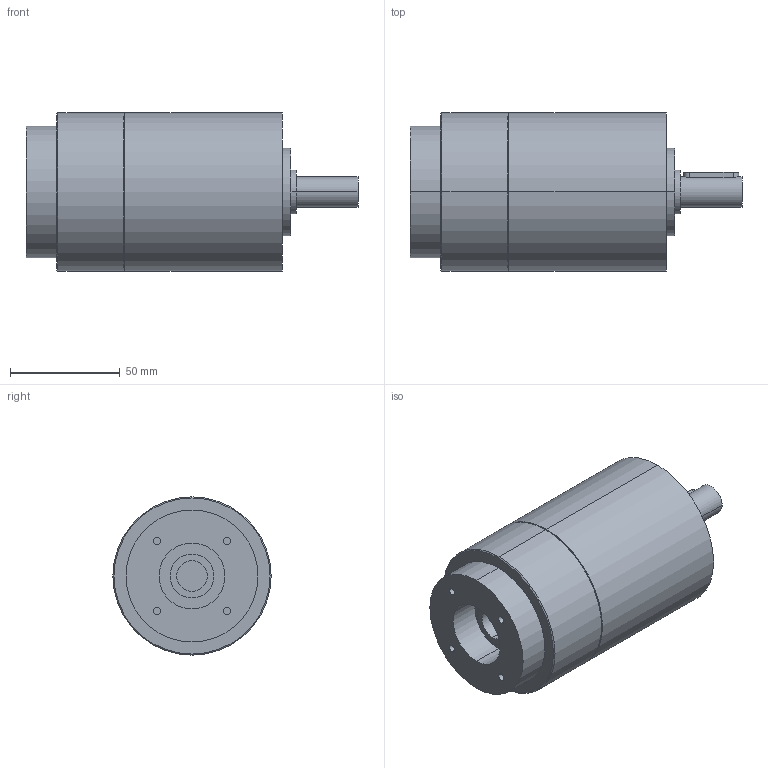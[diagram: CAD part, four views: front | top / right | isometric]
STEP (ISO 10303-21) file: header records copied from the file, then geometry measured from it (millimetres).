
FILE_DESCRIPTION(('CoCreate Modeling STEP Export'),'2;1');
FILE_NAME('GPT75_ig-9-12-16-20-25-28-35-40-50-70-100_14_B14T_14_P16.stp','2014-08-27T13:17:07',(''),(''),'CoCreate Modeling STEP processor for AP214 (Solid Model)','CoCreate Modeling 16.00C 25-Feb-2009 (C) Parametric Technology GmbH','');
FILE_SCHEMA(('AUTOMOTIVE_DESIGN { 1 0 10303 214 1 1 1 1 }'));
Length unit declared in the file: millimetre
Products named in the file (2): GPT75_ig-9-12-16-20-25-28-35-40-50-70-100_14_B14T_14_P16
Assembly tree (1 placements, depth 2):
  GPT75_ig-9-12-16-20-25-28-35-40-50-70-100_14_B14T_14_P16
    GPT75_ig-9-12-16-20-25-28-35-40-50-70-100_14_B14T_14_P16
Bounding box: 151 x 72 x 72 mm (x, y, z)
Volume: 451953.6 mm3; surface area: 40459.9 mm2
Topology: 1 solids, 1 shells, 64 faces, 142 edges, 97 vertices
Faces by surface type: cylinder 38, plane 22, cone 4
Entity records: 1878 total; most frequent: CARTESIAN_POINT 614, ORIENTED_EDGE 284, DIRECTION 210, EDGE_CURVE 142, VERTEX_POINT 97, AXIS2_PLACEMENT_3D 81, EDGE_LOOP 81, FACE_OUTER_BOUND 64
